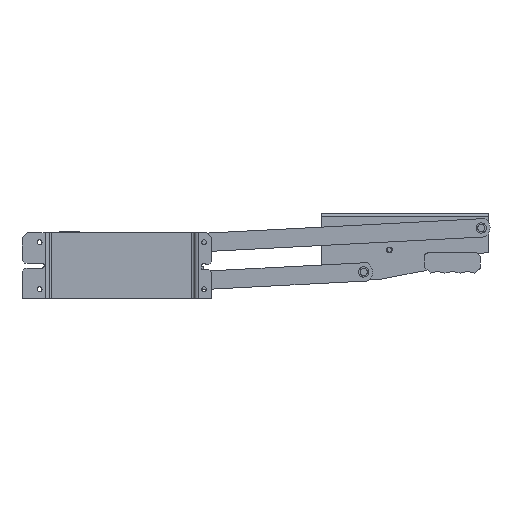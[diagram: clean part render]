
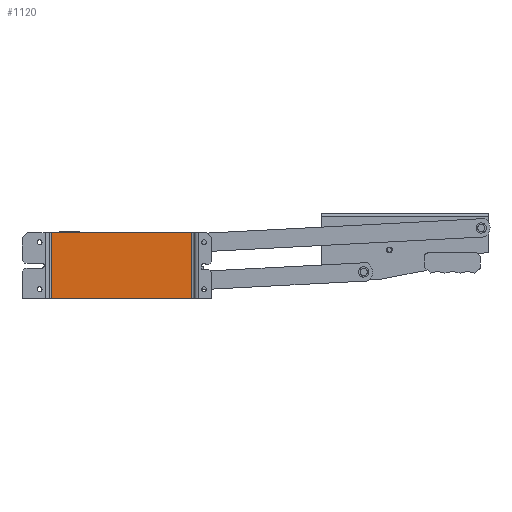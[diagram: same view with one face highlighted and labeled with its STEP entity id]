
A CAD part, left-side view. The second image highlights one B-rep face of the part: STEP entity #1120.
In plain terms, the highlighted planar face has unit normal (-1, 0, 0).
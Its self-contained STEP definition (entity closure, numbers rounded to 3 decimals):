
#1120=ADVANCED_FACE('',(#3014),#3015,.T.);
#3014=FACE_OUTER_BOUND('',#5877,.T.);
#3015=PLANE('',#5878);
#5877=EDGE_LOOP('',(#10849,#10850,#10851,#10852));
#5878=AXIS2_PLACEMENT_3D('',#10853,#10854,#10855);
#10849=ORIENTED_EDGE('',*,*,#18236,.T.);
#10850=ORIENTED_EDGE('',*,*,#18247,.T.);
#10851=ORIENTED_EDGE('',*,*,#18248,.T.);
#10852=ORIENTED_EDGE('',*,*,#18249,.F.);
#10853=CARTESIAN_POINT('',(-182.5,508.169,-71.458));
#10854=DIRECTION('',(-1.0,0.,0.0));
#10855=DIRECTION('',(0.,-1.0,0.0));
#18236=EDGE_CURVE('',#21505,#21503,#21506,.T.);
#18247=EDGE_CURVE('',#21503,#21519,#21520,.T.);
#18248=EDGE_CURVE('',#21519,#21521,#21522,.T.);
#18249=EDGE_CURVE('',#21505,#21521,#21523,.T.);
#21503=VERTEX_POINT('',#26248);
#21505=VERTEX_POINT('',#26250);
#21506=LINE('',#26251,#26252);
#21519=VERTEX_POINT('',#26270);
#21520=LINE('',#26271,#26272);
#21521=VERTEX_POINT('',#26273);
#21522=LINE('',#26274,#26275);
#21523=LINE('',#26276,#26277);
#26248=CARTESIAN_POINT('',(-182.5,405.922,-26.458));
#26250=CARTESIAN_POINT('',(-182.5,405.922,-116.458));
#26251=CARTESIAN_POINT('',(-182.5,405.922,-26.458));
#26252=VECTOR('',#37244,1.0);
#26270=CARTESIAN_POINT('',(-182.5,596.922,-26.458));
#26271=CARTESIAN_POINT('',(-182.5,405.922,-26.458));
#26272=VECTOR('',#37253,191.0);
#26273=CARTESIAN_POINT('',(-182.5,596.922,-116.458));
#26274=CARTESIAN_POINT('',(-182.5,596.922,-26.458));
#26275=VECTOR('',#37254,90.0);
#26276=CARTESIAN_POINT('',(-182.5,405.922,-116.458));
#26277=VECTOR('',#37255,191.0);
#37244=DIRECTION('',(0.,0.,1.0));
#37253=DIRECTION('',(0.,1.0,0.0));
#37254=DIRECTION('',(0.,0.,-1.0));
#37255=DIRECTION('',(0.,1.0,0.0));
